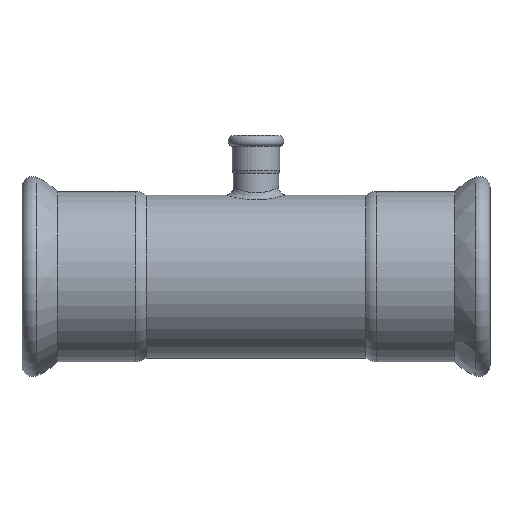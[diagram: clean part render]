
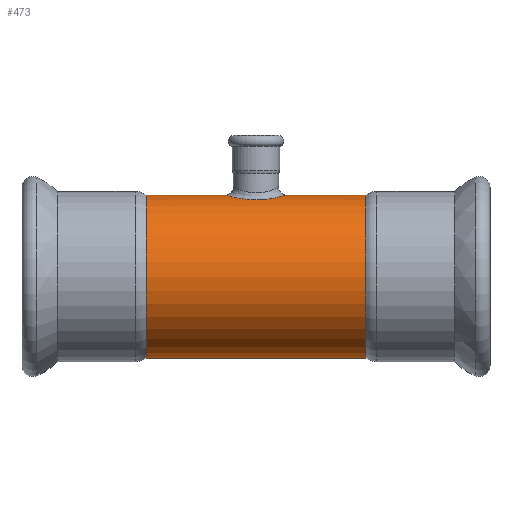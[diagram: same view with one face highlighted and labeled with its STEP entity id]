
A CAD part, front view. The second image highlights one B-rep face of the part: STEP entity #473.
In plain terms, the highlighted cylindrical face has radius 54 mm (diameter 108 mm), a full revolution.
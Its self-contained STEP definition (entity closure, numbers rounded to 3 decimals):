
#20=B_SPLINE_CURVE_WITH_KNOTS($,3,(#1176,#1177,#1178,#1179,#1180,#1181,
#1182,#1183,#1184,#1185,#1186,#1187,#1188,#1189,#1190,#1191,#1192,#1193,
#1194,#1195,#1196,#1197,#1198),.UNSPECIFIED.,.T.,.F.,(4,1,1,1,1,1,1,1,1,
1,1,1,1,1,1,1,1,3,4),(-9.092,-8.768,-8.443,
-7.793,-7.144,-6.494,-5.629,
-5.196,-4.763,-4.33,-3.897,
-3.247,-2.598,-1.948,-1.299,
-0.649,-0.325,0.,0.),
 .UNSPECIFIED.);
#58=FACE_BOUND($,#176,.T.);
#59=FACE_BOUND($,#177,.T.);
#89=CYLINDRICAL_SURFACE($,#543,54.);
#118=FACE_OUTER_BOUND($,#175,.T.);
#175=EDGE_LOOP($,(#408));
#176=EDGE_LOOP($,(#409));
#177=EDGE_LOOP($,(#410));
#245=CIRCLE($,#544,54.);
#246=CIRCLE($,#545,54.);
#288=VERTEX_POINT($,#1150);
#290=VERTEX_POINT($,#1201);
#291=VERTEX_POINT($,#1203);
#338=EDGE_CURVE($,#288,#288,#20,.T.);
#339=EDGE_CURVE($,#290,#290,#245,.T.);
#340=EDGE_CURVE($,#291,#291,#246,.T.);
#408=ORIENTED_EDGE($,*,*,#339,.T.);
#409=ORIENTED_EDGE($,*,*,#340,.F.);
#410=ORIENTED_EDGE($,*,*,#338,.F.);
#473=ADVANCED_FACE($,(#118,#58,#59),#89,.T.);
#543=AXIS2_PLACEMENT_3D($,#1200,#673,#674);
#544=AXIS2_PLACEMENT_3D($,#1202,#675,#676);
#545=AXIS2_PLACEMENT_3D($,#1204,#677,#678);
#673=DIRECTION('center_axis',(1.,0.,0.));
#674=DIRECTION('ref_axis',(0.,1.,0.));
#675=DIRECTION('center_axis',(1.,0.,0.));
#676=DIRECTION('ref_axis',(0.,1.,0.));
#677=DIRECTION('center_axis',(1.,0.,0.));
#678=DIRECTION('ref_axis',(0.,1.,0.));
#1150=CARTESIAN_POINT('',(-155.,18.305,50.803));
#1176=CARTESIAN_POINT('Ctrl Pts',(-155.,18.306,50.802));
#1177=CARTESIAN_POINT('Ctrl Pts',(-156.498,18.306,50.802));
#1178=CARTESIAN_POINT('Ctrl Pts',(-159.523,17.99,50.918));
#1179=CARTESIAN_POINT('Ctrl Pts',(-165.189,16.165,51.546));
#1180=CARTESIAN_POINT('Ctrl Pts',(-171.127,11.833,52.827));
#1181=CARTESIAN_POINT('Ctrl Pts',(-175.156,4.287,54.045));
#1182=CARTESIAN_POINT('Ctrl Pts',(-175.178,-5.198,54.056));
#1183=CARTESIAN_POINT('Ctrl Pts',(-170.466,-12.585,52.622));
#1184=CARTESIAN_POINT('Ctrl Pts',(-163.864,-16.71,51.366));
#1185=CARTESIAN_POINT('Ctrl Pts',(-158.065,-18.373,50.78));
#1186=CARTESIAN_POINT('Ctrl Pts',(-151.962,-18.376,50.778));
#1187=CARTESIAN_POINT('Ctrl Pts',(-145.188,-16.449,51.462));
#1188=CARTESIAN_POINT('Ctrl Pts',(-138.863,-11.821,52.83));
#1189=CARTESIAN_POINT('Ctrl Pts',(-134.839,-4.274,54.048));
#1190=CARTESIAN_POINT('Ctrl Pts',(-134.836,4.262,54.048));
#1191=CARTESIAN_POINT('Ctrl Pts',(-138.857,11.82,52.832));
#1192=CARTESIAN_POINT('Ctrl Pts',(-144.797,16.158,51.548));
#1193=CARTESIAN_POINT('Ctrl Pts',(-150.469,17.989,50.919));
#1194=CARTESIAN_POINT('Ctrl Pts',(-153.502,18.306,50.802));
#1195=CARTESIAN_POINT('Ctrl Pts',(-155.,18.306,50.802));
#1196=CARTESIAN_POINT('Ctrl Pts',(-155.,18.306,50.802));
#1197=CARTESIAN_POINT('Ctrl Pts',(-155.,18.306,50.802));
#1198=CARTESIAN_POINT('Ctrl Pts',(-155.,18.306,50.802));
#1200=CARTESIAN_POINT('Origin',(-218.9,0.,0.));
#1201=CARTESIAN_POINT('',(-227.8,54.,0.));
#1202=CARTESIAN_POINT('Origin',(-227.8,0.,0.));
#1203=CARTESIAN_POINT('',(-82.2,54.,0.));
#1204=CARTESIAN_POINT('Origin',(-82.2,0.,0.));
